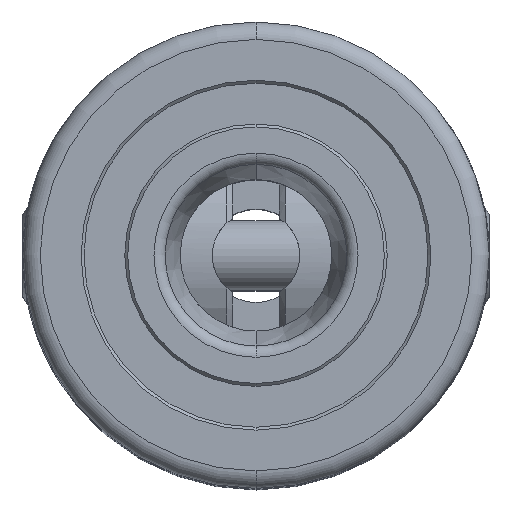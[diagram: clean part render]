
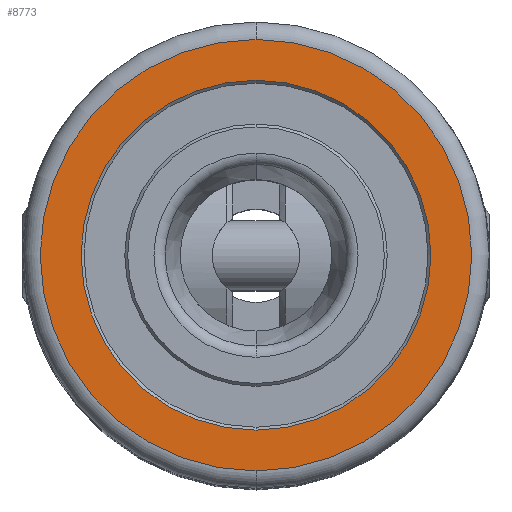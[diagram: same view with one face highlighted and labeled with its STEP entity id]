
A CAD part, top view. The second image highlights one B-rep face of the part: STEP entity #8773.
In plain terms, the highlighted planar face has unit normal (0, 0, 1).
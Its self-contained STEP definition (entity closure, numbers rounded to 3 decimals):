
#53 = CARTESIAN_POINT ( 'NONE',  ( 13., 0., 160. ) ) ;
#138 = DIRECTION ( 'NONE',  ( 0., 1., 0. ) ) ;
#158 = VERTEX_POINT ( 'NONE', #11953 ) ;
#225 = VERTEX_POINT ( 'NONE', #6169 ) ;
#245 = CIRCLE ( 'NONE', #11850, 37. ) ;
#1374 = FACE_BOUND ( 'NONE', #8182, .T. ) ;
#2251 = DIRECTION ( 'NONE',  ( 0., 0., -1. ) ) ;
#2862 = DIRECTION ( 'NONE',  ( 0., 0., -1. ) ) ;
#3415 = AXIS2_PLACEMENT_3D ( 'NONE', #53, #4016, #4931 ) ;
#3578 = VERTEX_POINT ( 'NONE', #13720 ) ;
#4016 = DIRECTION ( 'NONE',  ( 0., 0., 1. ) ) ;
#4421 = CIRCLE ( 'NONE', #13644, 30. ) ;
#4739 = ORIENTED_EDGE ( 'NONE', *, *, #9799, .T. ) ;
#4931 = DIRECTION ( 'NONE',  ( 0., -1., 0. ) ) ;
#4962 = CARTESIAN_POINT ( 'NONE',  ( 0., 0., 160. ) ) ;
#5449 = EDGE_LOOP ( 'NONE', ( #6351, #4739 ) ) ;
#5740 = EDGE_CURVE ( 'NONE', #225, #158, #4421, .T. ) ;
#5858 = CIRCLE ( 'NONE', #12703, 30. ) ;
#6038 = DIRECTION ( 'NONE',  ( 0., 1., 0. ) ) ;
#6114 = DIRECTION ( 'NONE',  ( 0., 0., 1. ) ) ;
#6169 = CARTESIAN_POINT ( 'NONE',  ( 0., 30., 160. ) ) ;
#6351 = ORIENTED_EDGE ( 'NONE', *, *, #11019, .T. ) ;
#8182 = EDGE_LOOP ( 'NONE', ( #14898, #13510 ) ) ;
#8261 = CARTESIAN_POINT ( 'NONE',  ( 0., 0., 160. ) ) ;
#8773 = ADVANCED_FACE ( 'NONE', ( #13994, #1374 ), #10203, .T. ) ;
#9487 = AXIS2_PLACEMENT_3D ( 'NONE', #4962, #6114, #9982 ) ;
#9799 = EDGE_CURVE ( 'NONE', #10831, #3578, #245, .T. ) ;
#9883 = CARTESIAN_POINT ( 'NONE',  ( 0., 0., 160. ) ) ;
#9982 = DIRECTION ( 'NONE',  ( 0., -1., 0. ) ) ;
#10203 = PLANE ( 'NONE',  #3415 ) ;
#10831 = VERTEX_POINT ( 'NONE', #11168 ) ;
#11019 = EDGE_CURVE ( 'NONE', #3578, #10831, #13981, .T. ) ;
#11168 = CARTESIAN_POINT ( 'NONE',  ( 0., 37., 160. ) ) ;
#11850 = AXIS2_PLACEMENT_3D ( 'NONE', #9883, #16241, #14922 ) ;
#11953 = CARTESIAN_POINT ( 'NONE',  ( 0., -30., 160. ) ) ;
#12703 = AXIS2_PLACEMENT_3D ( 'NONE', #8261, #2251, #6038 ) ;
#13510 = ORIENTED_EDGE ( 'NONE', *, *, #5740, .T. ) ;
#13644 = AXIS2_PLACEMENT_3D ( 'NONE', #15482, #2862, #138 ) ;
#13720 = CARTESIAN_POINT ( 'NONE',  ( 0., -37., 160. ) ) ;
#13981 = CIRCLE ( 'NONE', #9487, 37. ) ;
#13994 = FACE_OUTER_BOUND ( 'NONE', #5449, .T. ) ;
#14711 = EDGE_CURVE ( 'NONE', #158, #225, #5858, .T. ) ;
#14898 = ORIENTED_EDGE ( 'NONE', *, *, #14711, .T. ) ;
#14922 = DIRECTION ( 'NONE',  ( 0., -1., 0. ) ) ;
#15482 = CARTESIAN_POINT ( 'NONE',  ( 0., 0., 160. ) ) ;
#16241 = DIRECTION ( 'NONE',  ( 0., 0., 1. ) ) ;
